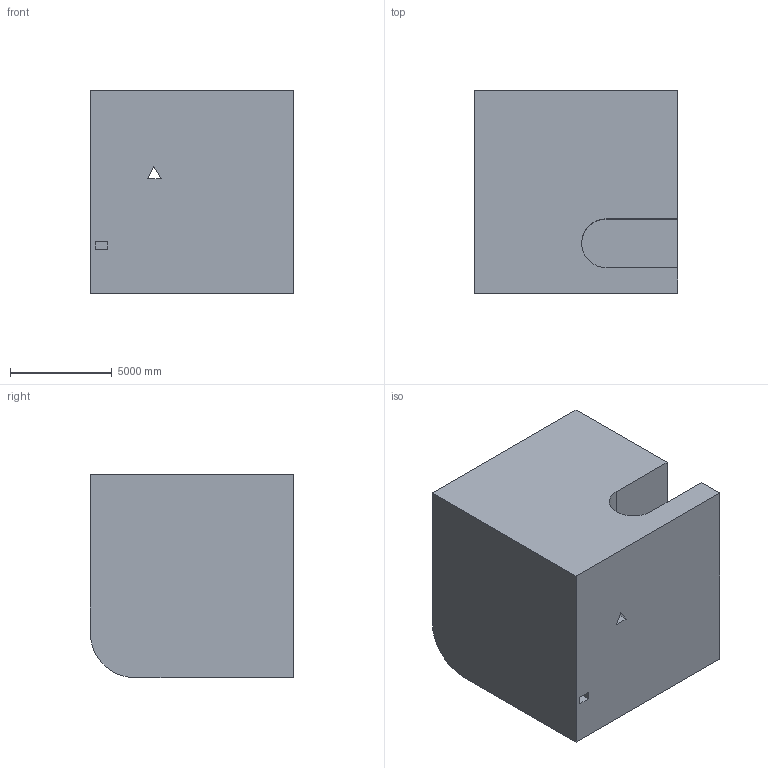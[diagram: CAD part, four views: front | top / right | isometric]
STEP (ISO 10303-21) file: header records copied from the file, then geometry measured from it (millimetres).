
FILE_DESCRIPTION (( 'STEP AP203' ), '1' );
FILE_NAME ('39.STEP', '2022-09-01T11:43:00', ( 'user' ), ( '' ), 'SwSTEP 2.0', 'SolidWorks 2021', '' );
FILE_SCHEMA (( 'CONFIG_CONTROL_DESIGN' ));
Length unit declared in the file: centimetre
Products named in the file (1): 39
Bounding box: 10000 x 10000 x 10000 mm (x, y, z)
Volume: 889881462816.9 mm3; surface area: 691297149.1 mm2
Topology: 1 solids, 1 shells, 19 faces, 48 edges, 32 vertices
Faces by surface type: plane 17, cylinder 2
Entity records: 647 total; most frequent: CARTESIAN_POINT 100, ORIENTED_EDGE 96, DIRECTION 92, EDGE_CURVE 48, VECTOR 44, LINE 44, VERTEX_POINT 32, AXIS2_PLACEMENT_3D 24
